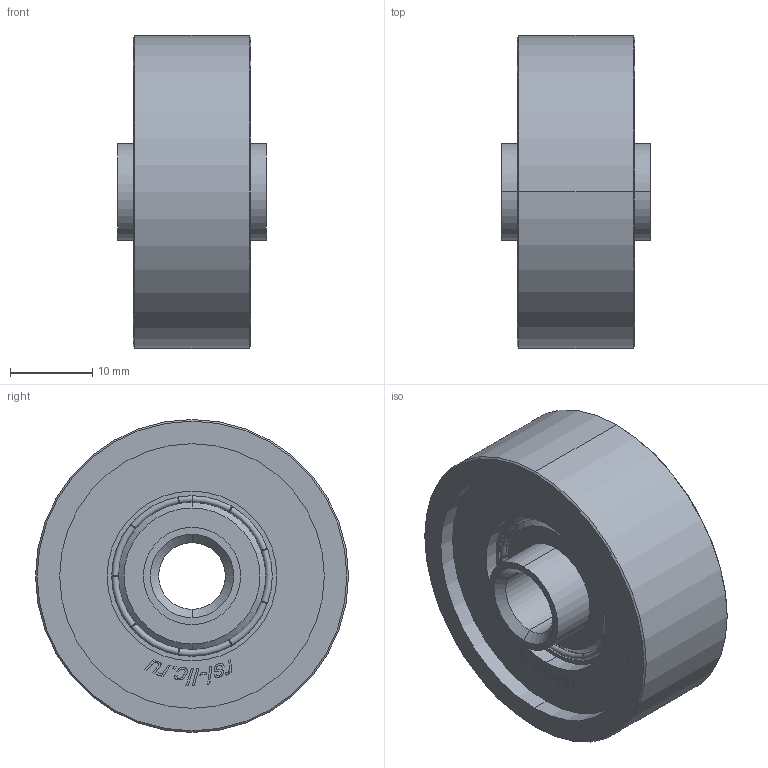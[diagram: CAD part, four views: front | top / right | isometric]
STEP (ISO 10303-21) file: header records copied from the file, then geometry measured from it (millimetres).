
FILE_DESCRIPTION (( 'STEP AP214' ), '1' );
FILE_NAME ('391.0400À.01.STEP', '2026-05-25T05:00:08', ( '' ), ( '' ), 'SwSTEP 2.0', 'SolidWorks 2022', '' );
FILE_SCHEMA (( 'AUTOMOTIVE_DESIGN' ));
Length unit declared in the file: millimetre
Products named in the file (5): 391.0400А.01-4; 391.0400А.01-2; 391.0400А.01-1; 391.0400А.01-3; 391.0400А.01
Assembly tree (9 placements, depth 2):
  391.0400А.01
    391.0400А.01-1
    391.0400А.01-2  x6
    391.0400А.01-3
    391.0400А.01-4
Bounding box: 18 x 38 x 38 mm (x, y, z)
Volume: 11685.3 mm3; surface area: 9061 mm2
Topology: 21 solids, 21 shells, 277 faces, 793 edges, 514 vertices
Faces by surface type: plane 139, cylinder 42, torus 40, bspline 32, cone 12, sphere 12
Entity records: 13802 total; most frequent: CARTESIAN_POINT 4098, ORIENTED_EDGE 1506, DIRECTION 1291, EDGE_CURVE 753, VERTEX_POINT 486, AXIS2_PLACEMENT_3D 463, LINE 365, VECTOR 365
